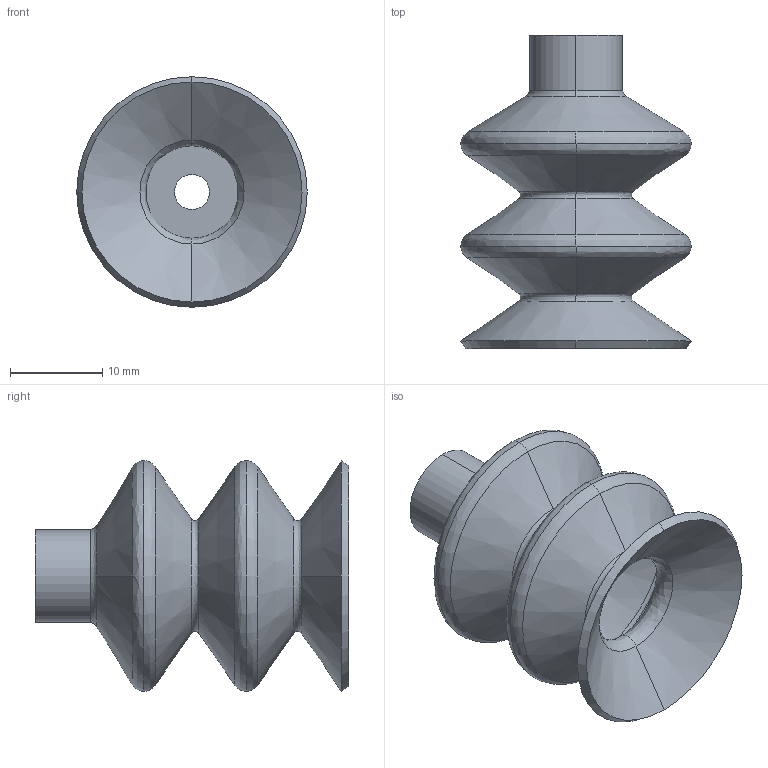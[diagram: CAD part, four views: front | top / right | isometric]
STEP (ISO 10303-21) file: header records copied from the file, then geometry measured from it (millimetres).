
FILE_DESCRIPTION (( 'STEP AP214' ), '1' );
FILE_NAME ('VS3-S25.STEP', '2019-11-13T08:44:17', ( '微软用户' ), ( '微软中国' ), 'SwSTEP 2.0', 'SolidWorks 2016', '' );
FILE_SCHEMA (( 'AUTOMOTIVE_DESIGN' ));
Length unit declared in the file: millimetre
Products named in the file (1): VS3-S25
Bounding box: 25 x 34 x 25 mm (x, y, z)
Volume: 3176.7 mm3; surface area: 5270 mm2
Topology: 1 solids, 1 shells, 55 faces, 118 edges, 66 vertices
Faces by surface type: bspline 26, cone 22, cylinder 4, plane 3
Entity records: 1796 total; most frequent: CARTESIAN_POINT 714, ORIENTED_EDGE 236, DIRECTION 214, EDGE_CURVE 118, AXIS2_PLACEMENT_3D 94, VERTEX_POINT 66, CIRCLE 64, EDGE_LOOP 58
